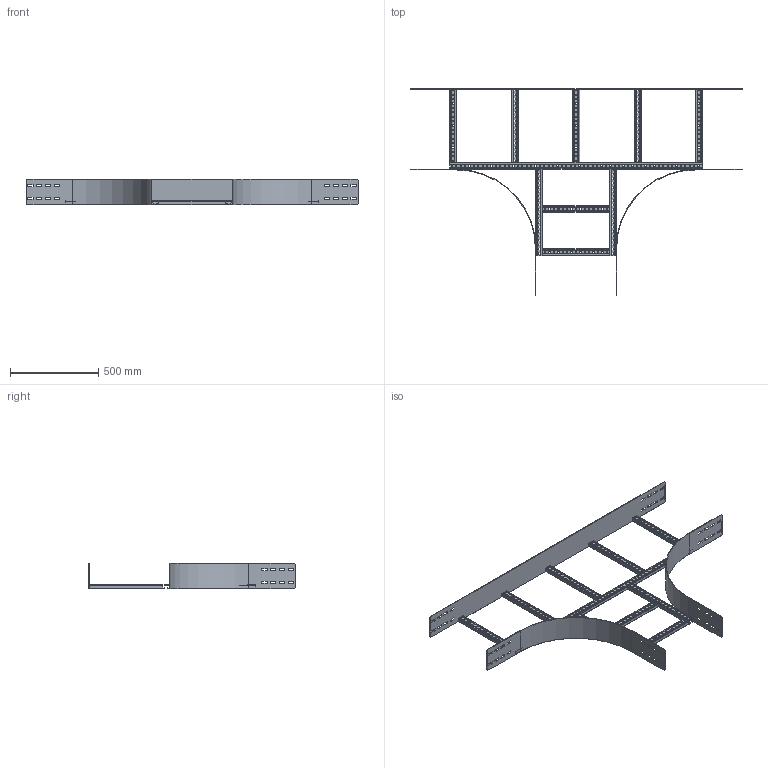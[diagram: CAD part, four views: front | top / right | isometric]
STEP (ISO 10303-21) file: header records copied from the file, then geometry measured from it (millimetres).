
FILE_DESCRIPTION(('Creo Elements/Direct Modeling STEP Export'),'2;1');
FILE_NAME('WPTP15-45-45-HDG.stp','2016-11-10T15:47:35',(''),(''),'PTC Creo Elements/Direct Modeling STEP processor for AP214 (Solid Model)','PTC Creo Elements/Direct Modeling 19.0C 15-Aug-2015 (C) Parametric Technology GmbH','');
FILE_SCHEMA(('AUTOMOTIVE_DESIGN { 1 0 10303 214 1 1 1 1 }'));
Length unit declared in the file: millimetre
Products named in the file (7): WPTPS45; WPHBI_150; WPKSP2; WPAAG_150-45; WPKS45; WPKSP1-45; WPTP15-45-45
Assembly tree (13 placements, depth 2):
  WPTP15-45-45
    WPKSP1-45
    WPKS45  x2
    WPTPS45  x5
    WPKSP2  x2
    WPAAG_150-45
    WPHBI_150  x2
Bounding box: 1885 x 1173 x 145 mm (x, y, z)
Volume: 2612652.8 mm3; surface area: 2329849.8 mm2
Topology: 13 solids, 13 shells, 1496 faces, 4410 edges, 2940 vertices
Faces by surface type: plane 872, cylinder 624
Entity records: 26006 total; most frequent: CARTESIAN_POINT 4473, ORIENTED_EDGE 4464, DIRECTION 4342, EDGE_CURVE 2232, VECTOR 1628, LINE 1628, VERTEX_POINT 1488, AXIS2_PLACEMENT_3D 1357
